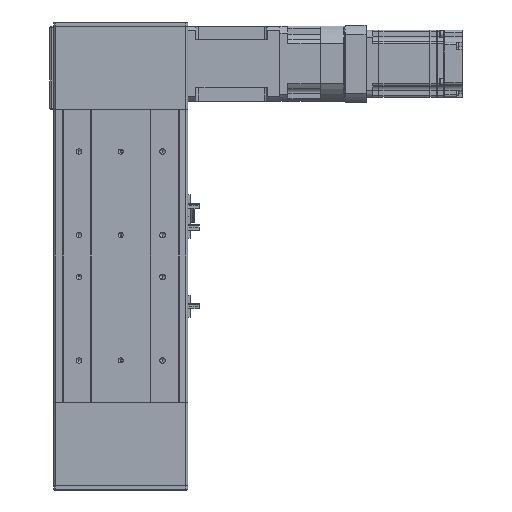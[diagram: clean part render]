
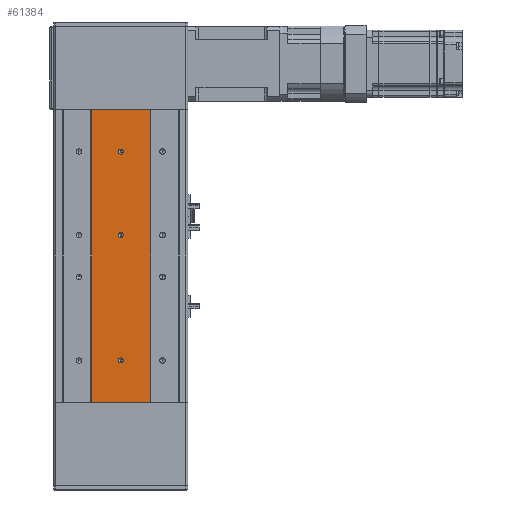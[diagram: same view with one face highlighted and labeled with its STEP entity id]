
A CAD part, front view. The second image highlights one B-rep face of the part: STEP entity #61384.
In plain terms, the highlighted planar face has unit normal (0, -1, 0).
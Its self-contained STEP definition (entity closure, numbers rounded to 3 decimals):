
#157 = VERTEX_POINT ( 'NONE', #21829 ) ;
#176 = VERTEX_POINT ( 'NONE', #21857 ) ;
#215 = VERTEX_POINT ( 'NONE', #21906 ) ;
#4344 = CARTESIAN_POINT ( 'NONE',  ( 0., -51., 25. ) ) ;
#4346 = DIRECTION ( 'NONE',  ( 0., 1., 0. ) ) ;
#4354 = DIRECTION ( 'NONE',  ( 0., 1., 0. ) ) ;
#4358 = DIRECTION ( 'NONE',  ( 0., 0., 1. ) ) ;
#4369 = DIRECTION ( 'NONE',  ( 0., 0., 1. ) ) ;
#4376 = CARTESIAN_POINT ( 'NONE',  ( 0., -51., -125. ) ) ;
#4386 = CARTESIAN_POINT ( 'NONE',  ( -35., -51., 175. ) ) ;
#4401 = CARTESIAN_POINT ( 'NONE',  ( 0., -51., 175. ) ) ;
#4402 = DIRECTION ( 'NONE',  ( 1., 0., 0. ) ) ;
#4416 = DIRECTION ( 'NONE',  ( 0., 0., -1. ) ) ;
#4506 = DIRECTION ( 'NONE',  ( 0., 0., -1. ) ) ;
#4510 = CARTESIAN_POINT ( 'NONE',  ( 35., -51., 175. ) ) ;
#4522 = DIRECTION ( 'NONE',  ( 1., 0., 0. ) ) ;
#4534 = CARTESIAN_POINT ( 'NONE',  ( 0., -51., -175. ) ) ;
#4580 = CARTESIAN_POINT ( 'NONE',  ( 0., -51., 125. ) ) ;
#4603 = DIRECTION ( 'NONE',  ( 0., 0., 1. ) ) ;
#4613 = DIRECTION ( 'NONE',  ( 0., 1., 0. ) ) ;
#13691 = DIRECTION ( 'NONE',  ( 0., 0., 1. ) ) ;
#13700 = CARTESIAN_POINT ( 'NONE',  ( 0., -51., 25. ) ) ;
#13710 = DIRECTION ( 'NONE',  ( 0., 1., 0. ) ) ;
#13712 = CARTESIAN_POINT ( 'NONE',  ( 0., -51., 125. ) ) ;
#13714 = DIRECTION ( 'NONE',  ( 0., 1., 0. ) ) ;
#13716 = DIRECTION ( 'NONE',  ( 0., 0., 1. ) ) ;
#13811 = DIRECTION ( 'NONE',  ( 0., 1., 0. ) ) ;
#13816 = CARTESIAN_POINT ( 'NONE',  ( 0., -51., -125. ) ) ;
#13853 = DIRECTION ( 'NONE',  ( 0., 0., 1. ) ) ;
#19941 = VERTEX_POINT ( 'NONE', #76394 ) ;
#19983 = VERTEX_POINT ( 'NONE', #76447 ) ;
#20016 = VERTEX_POINT ( 'NONE', #76557 ) ;
#20035 = VERTEX_POINT ( 'NONE', #76537 ) ;
#20047 = VERTEX_POINT ( 'NONE', #76526 ) ;
#20050 = VERTEX_POINT ( 'NONE', #76559 ) ;
#20456 = VERTEX_POINT ( 'NONE', #75015 ) ;
#21829 = CARTESIAN_POINT ( 'NONE',  ( -35., -51., -175. ) ) ;
#21857 = CARTESIAN_POINT ( 'NONE',  ( 35., -51., -175. ) ) ;
#21906 = CARTESIAN_POINT ( 'NONE',  ( -35., -51., 175. ) ) ;
#25265 = EDGE_LOOP ( 'NONE', ( #46765, #46787 ) ) ;
#25313 = EDGE_LOOP ( 'NONE', ( #46815, #46768, #46830, #46805 ) ) ;
#25357 = EDGE_LOOP ( 'NONE', ( #46771, #46869 ) ) ;
#25417 = EDGE_LOOP ( 'NONE', ( #46759, #46807 ) ) ;
#26290 = FACE_BOUND ( 'NONE', #25265, .T. ) ;
#26293 = FACE_BOUND ( 'NONE', #25417, .T. ) ;
#26295 = FACE_OUTER_BOUND ( 'NONE', #25313, .T. ) ;
#26330 = FACE_BOUND ( 'NONE', #25357, .T. ) ;
#40360 = AXIS2_PLACEMENT_3D ( 'NONE', #51370, #51372, #51419 ) ;
#45692 = EDGE_CURVE ( 'NONE', #20016, #19983, #57878, .T. ) ;
#45694 = EDGE_CURVE ( 'NONE', #20035, #20050, #57890, .T. ) ;
#45747 = EDGE_CURVE ( 'NONE', #20047, #19941, #56860, .T. ) ;
#46014 = EDGE_CURVE ( 'NONE', #19941, #20047, #57352, .T. ) ;
#46015 = EDGE_CURVE ( 'NONE', #20050, #20035, #57340, .T. ) ;
#46019 = EDGE_CURVE ( 'NONE', #215, #157, #57361, .T. ) ;
#46023 = EDGE_CURVE ( 'NONE', #215, #20456, #57369, .T. ) ;
#46049 = EDGE_CURVE ( 'NONE', #20456, #176, #57345, .T. ) ;
#46061 = EDGE_CURVE ( 'NONE', #157, #176, #57173, .T. ) ;
#46070 = EDGE_CURVE ( 'NONE', #19983, #20016, #57777, .T. ) ;
#46759 = ORIENTED_EDGE ( 'NONE', *, *, #45694, .T. ) ;
#46765 = ORIENTED_EDGE ( 'NONE', *, *, #45692, .T. ) ;
#46768 = ORIENTED_EDGE ( 'NONE', *, *, #46049, .F. ) ;
#46771 = ORIENTED_EDGE ( 'NONE', *, *, #45747, .T. ) ;
#46787 = ORIENTED_EDGE ( 'NONE', *, *, #46070, .T. ) ;
#46805 = ORIENTED_EDGE ( 'NONE', *, *, #46019, .T. ) ;
#46807 = ORIENTED_EDGE ( 'NONE', *, *, #46015, .T. ) ;
#46815 = ORIENTED_EDGE ( 'NONE', *, *, #46061, .T. ) ;
#46830 = ORIENTED_EDGE ( 'NONE', *, *, #46023, .F. ) ;
#46869 = ORIENTED_EDGE ( 'NONE', *, *, #46014, .T. ) ;
#51370 = CARTESIAN_POINT ( 'NONE',  ( 0., -51., 175. ) ) ;
#51372 = DIRECTION ( 'NONE',  ( 0., 1., 0. ) ) ;
#51399 = PLANE ( 'NONE',  #40360 ) ;
#51419 = DIRECTION ( 'NONE',  ( 0., 0., 1. ) ) ;
#51841 = AXIS2_PLACEMENT_3D ( 'NONE', #13712, #13714, #13716 ) ;
#51865 = AXIS2_PLACEMENT_3D ( 'NONE', #13700, #13710, #13691 ) ;
#51889 = AXIS2_PLACEMENT_3D ( 'NONE', #13816, #13811, #13853 ) ;
#51930 = AXIS2_PLACEMENT_3D ( 'NONE', #4376, #4354, #4358 ) ;
#51932 = AXIS2_PLACEMENT_3D ( 'NONE', #4344, #4346, #4369 ) ;
#51979 = AXIS2_PLACEMENT_3D ( 'NONE', #4580, #4613, #4603 ) ;
#56860 = CIRCLE ( 'NONE', #51889, 3. ) ;
#57173 = LINE ( 'NONE', #4534, #57190 ) ;
#57190 = VECTOR ( 'NONE', #4522, 1000. ) ;
#57340 = CIRCLE ( 'NONE', #51932, 3. ) ;
#57345 = LINE ( 'NONE', #4510, #57347 ) ;
#57347 = VECTOR ( 'NONE', #4506, 1000. ) ;
#57352 = CIRCLE ( 'NONE', #51930, 3. ) ;
#57361 = LINE ( 'NONE', #4386, #57401 ) ;
#57365 = VECTOR ( 'NONE', #4402, 1000. ) ;
#57369 = LINE ( 'NONE', #4401, #57365 ) ;
#57401 = VECTOR ( 'NONE', #4416, 1000. ) ;
#57777 = CIRCLE ( 'NONE', #51979, 3. ) ;
#57878 = CIRCLE ( 'NONE', #51841, 3. ) ;
#57890 = CIRCLE ( 'NONE', #51865, 3. ) ;
#61384 = ADVANCED_FACE ( 'NONE', ( #26290, #26293, #26330, #26295 ), #51399, .F. ) ;
#75015 = CARTESIAN_POINT ( 'NONE',  ( 35., -51., 175. ) ) ;
#76394 = CARTESIAN_POINT ( 'NONE',  ( 0., -51., -122. ) ) ;
#76447 = CARTESIAN_POINT ( 'NONE',  ( 0., -51., 128. ) ) ;
#76526 = CARTESIAN_POINT ( 'NONE',  ( 0., -51., -128. ) ) ;
#76537 = CARTESIAN_POINT ( 'NONE',  ( 0., -51., 22. ) ) ;
#76557 = CARTESIAN_POINT ( 'NONE',  ( 0., -51., 122. ) ) ;
#76559 = CARTESIAN_POINT ( 'NONE',  ( 0., -51., 28. ) ) ;
